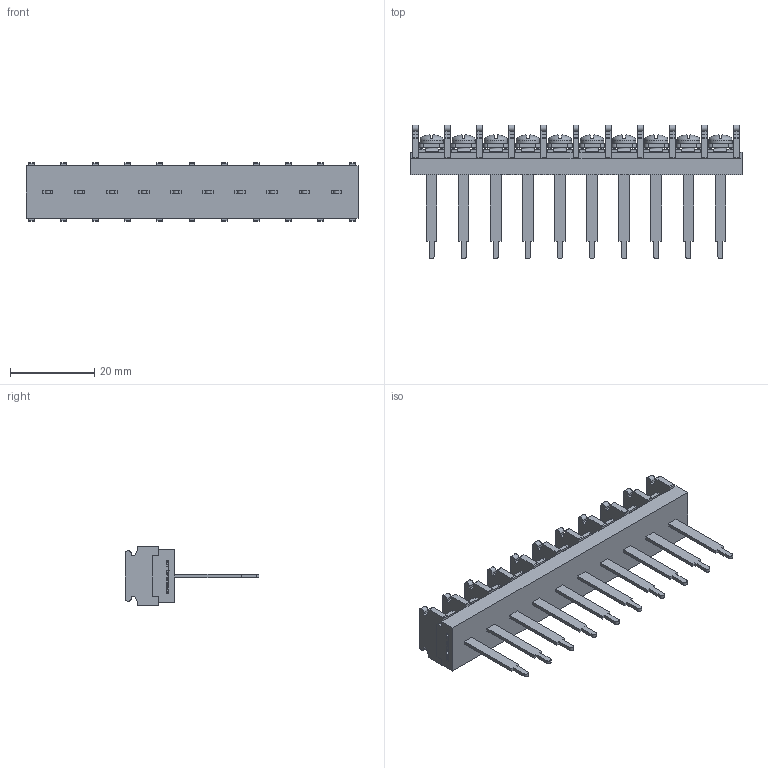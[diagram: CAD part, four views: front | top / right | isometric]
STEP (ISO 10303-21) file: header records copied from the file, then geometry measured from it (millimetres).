
FILE_DESCRIPTION(/* description */ ('Alibre Inc.'),/* implementation_level */ '2;1');
FILE_NAME(/* name */ 'export0',/* time_stamp */ '2015-10-26T16:09:08+09:00',/* author */ (''),/* organization */ (''),/* preprocessor_version */ 'ST-DEVELOPER v14',/* originating_system */ 'Alibre',/* authorisation */ '');
FILE_SCHEMA (('CONFIG_CONTROL_DESIGN'));
Length unit declared in the file: centimetre
Products named in the file (1): ID_1
Bounding box: 78.82 x 31.8 x 14 mm (x, y, z)
Volume: 7769.7 mm3; surface area: 8138.7 mm2
Topology: 1 solids, 1 shells, 1562 faces, 4296 edges, 2816 vertices
Faces by surface type: plane 1222, cylinder 156, bspline 104, cone 40, torus 20, sphere 20
Full cylindrical faces by diameter (mm): 3 x10, 5.5 x10
Entity records: 46933 total; most frequent: CARTESIAN_POINT 9893, ORIENTED_EDGE 8472, DIRECTION 5948, EDGE_CURVE 4236, VECTOR 3096, LINE 3096, VERTEX_POINT 2796, AXIS2_PLACEMENT_3D 1993
